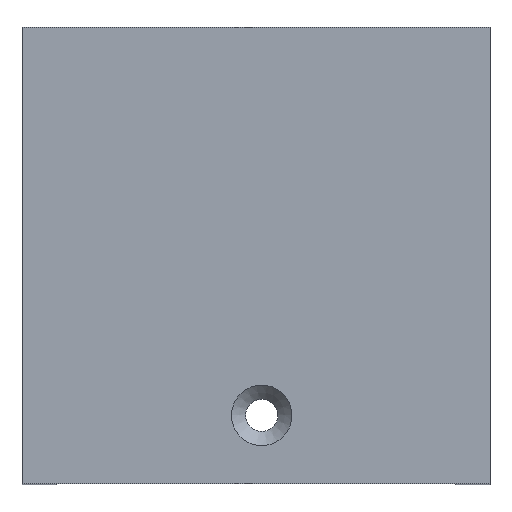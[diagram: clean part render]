
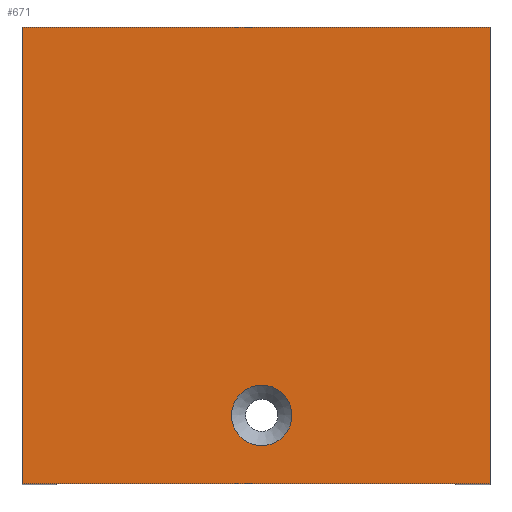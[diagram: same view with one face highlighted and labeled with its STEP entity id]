
A CAD part, top view. The second image highlights one B-rep face of the part: STEP entity #671.
In plain terms, the highlighted planar face has unit normal (0, 0, 1).
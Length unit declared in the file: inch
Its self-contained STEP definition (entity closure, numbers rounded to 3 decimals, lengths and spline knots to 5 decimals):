
#30=FACE_BOUND('',#130,.T.);
#49=PLANE('',#734);
#84=FACE_OUTER_BOUND('',#129,.T.);
#129=EDGE_LOOP('',(#617,#618,#619,#620));
#130=EDGE_LOOP('',(#621));
#136=LINE('',#940,#200);
#191=LINE('',#1117,#255);
#193=LINE('',#1121,#257);
#195=LINE('',#1124,#259);
#200=VECTOR('',#750,2.);
#255=VECTOR('',#913,2.05);
#257=VECTOR('',#917,2.);
#259=VECTOR('',#921,2.05);
#265=CIRCLE('',#688,0.1325);
#291=VERTEX_POINT('',#937);
#292=VERTEX_POINT('',#939);
#309=VERTEX_POINT('',#985);
#348=VERTEX_POINT('',#1116);
#349=VERTEX_POINT('',#1120);
#356=EDGE_CURVE('',#292,#291,#136,.T.);
#379=EDGE_CURVE('',#309,#309,#265,.T.);
#437=EDGE_CURVE('',#292,#348,#191,.T.);
#439=EDGE_CURVE('',#349,#348,#193,.T.);
#441=EDGE_CURVE('',#349,#291,#195,.T.);
#617=ORIENTED_EDGE('',*,*,#356,.T.);
#618=ORIENTED_EDGE('',*,*,#441,.F.);
#619=ORIENTED_EDGE('',*,*,#439,.T.);
#620=ORIENTED_EDGE('',*,*,#437,.F.);
#621=ORIENTED_EDGE('',*,*,#379,.T.);
#671=ADVANCED_FACE('',(#84,#30),#49,.T.);
#688=AXIS2_PLACEMENT_3D('',#986,#788,#789);
#734=AXIS2_PLACEMENT_3D('',#1123,#919,#920);
#750=DIRECTION('',(0.,1.,0.));
#788=DIRECTION('center_axis',(0.,0.,-1.));
#789=DIRECTION('ref_axis',(1.,0.,0.));
#913=DIRECTION('',(-1.,0.,0.));
#917=DIRECTION('',(0.,-1.,0.));
#919=DIRECTION('center_axis',(0.,0.,1.));
#920=DIRECTION('ref_axis',(1.,0.,0.));
#921=DIRECTION('',(1.,0.,0.));
#937=CARTESIAN_POINT('',(1.025,1.,1.11));
#939=CARTESIAN_POINT('',(1.025,-1.,1.11));
#940=CARTESIAN_POINT('',(1.025,0.,1.11));
#985=CARTESIAN_POINT('',(0.1575,-0.7,1.11));
#986=CARTESIAN_POINT('Origin',(0.025,-0.7,1.11));
#1116=CARTESIAN_POINT('',(-1.025,-1.,1.11));
#1117=CARTESIAN_POINT('',(-1.025,-1.,1.11));
#1120=CARTESIAN_POINT('',(-1.025,1.,1.11));
#1121=CARTESIAN_POINT('',(-1.025,0.,1.11));
#1123=CARTESIAN_POINT('Origin',(-1.025,0.,1.11));
#1124=CARTESIAN_POINT('',(-1.025,1.,1.11));
